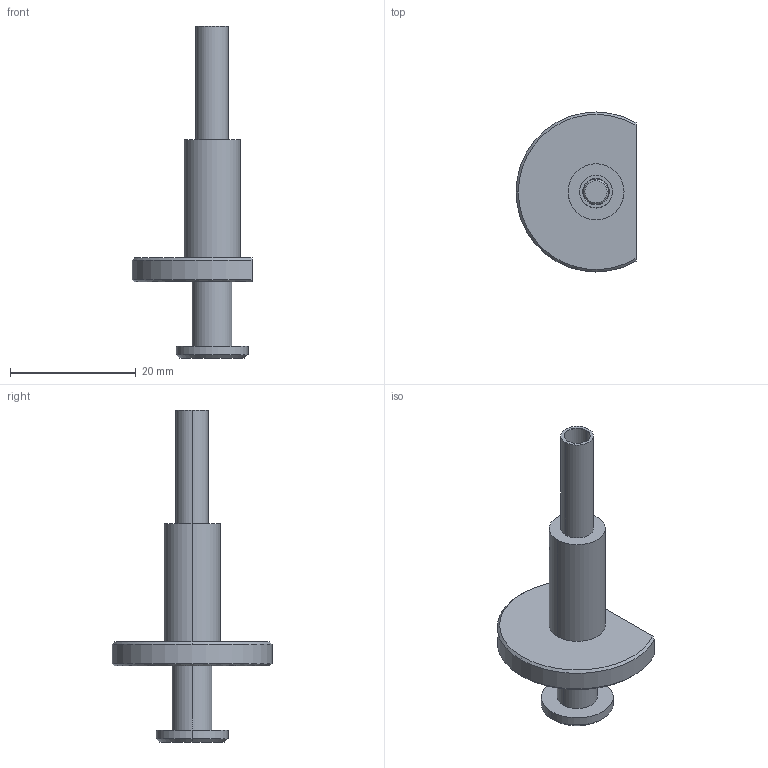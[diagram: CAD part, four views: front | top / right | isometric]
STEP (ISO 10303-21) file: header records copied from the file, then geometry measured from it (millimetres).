
FILE_DESCRIPTION (( 'STEP AP214' ), '1' );
FILE_NAME ('500-32-022.STEP', '2017-11-13T07:01:19', ( '' ), ( '' ), 'SwSTEP 2.0', 'SolidWorks 2016', '' );
FILE_SCHEMA (( 'AUTOMOTIVE_DESIGN' ));
Length unit declared in the file: millimetre
Products named in the file (2): 500-32-022
Bounding box: 19.05 x 25.4 x 52.7 mm (x, y, z)
Volume: 3459.4 mm3; surface area: 2441 mm2
Topology: 1 solids, 1 shells, 29 faces, 59 edges, 38 vertices
Faces by surface type: cylinder 11, plane 9, cone 7, torus 2
Entity records: 1138 total; most frequent: DIRECTION 153, CARTESIAN_POINT 140, ORIENTED_EDGE 118, AXIS2_PLACEMENT_3D 67, EDGE_CURVE 59, VERTEX_POINT 38, CIRCLE 36, EDGE_LOOP 35
